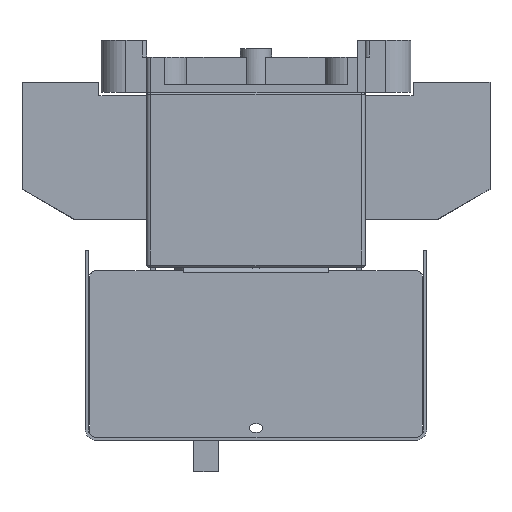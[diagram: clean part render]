
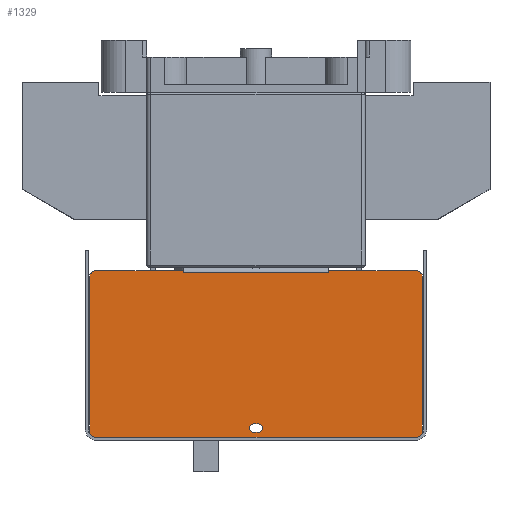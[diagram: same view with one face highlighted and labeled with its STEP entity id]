
A CAD part, left-side view. The second image highlights one B-rep face of the part: STEP entity #1329.
In plain terms, the highlighted planar face has unit normal (-1, 0, 0).
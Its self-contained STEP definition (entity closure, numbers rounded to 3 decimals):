
#170=FACE_BOUND('',#4641,.T.);
#171=FACE_BOUND('',#4642,.T.);
#1329=ADVANCED_FACE('',(#170,#171),#2339,.T.);
#2339=PLANE('',#24716);
#4641=EDGE_LOOP('',(#9539,#9540,#9541,#9542,#9543,#9544,#9545,#9546,#9547,
#9548,#9549,#9550,#9551,#9552));
#4642=EDGE_LOOP('',(#9553,#9554,#9555,#9556));
#5763=CIRCLE('',#24694,2.1);
#5765=CIRCLE('',#24698,2.1);
#5767=CIRCLE('',#24702,3.);
#5769=CIRCLE('',#24705,3.);
#5771=CIRCLE('',#24709,3.);
#5773=CIRCLE('',#24713,3.);
#9539=ORIENTED_EDGE('',*,*,#16827,.F.);
#9540=ORIENTED_EDGE('',*,*,#16828,.T.);
#9541=ORIENTED_EDGE('',*,*,#16829,.T.);
#9542=ORIENTED_EDGE('',*,*,#16830,.T.);
#9543=ORIENTED_EDGE('',*,*,#16831,.F.);
#9544=ORIENTED_EDGE('',*,*,#16819,.T.);
#9545=ORIENTED_EDGE('',*,*,#16824,.T.);
#9546=ORIENTED_EDGE('',*,*,#16807,.T.);
#9547=ORIENTED_EDGE('',*,*,#16810,.T.);
#9548=ORIENTED_EDGE('',*,*,#16785,.T.);
#9549=ORIENTED_EDGE('',*,*,#16813,.T.);
#9550=ORIENTED_EDGE('',*,*,#16816,.T.);
#9551=ORIENTED_EDGE('',*,*,#16818,.T.);
#9552=ORIENTED_EDGE('',*,*,#16793,.T.);
#9553=ORIENTED_EDGE('',*,*,#16797,.T.);
#9554=ORIENTED_EDGE('',*,*,#16801,.T.);
#9555=ORIENTED_EDGE('',*,*,#16804,.T.);
#9556=ORIENTED_EDGE('',*,*,#16826,.T.);
#13646=VERTEX_POINT('',#34491);
#13691=VERTEX_POINT('',#34588);
#13975=VERTEX_POINT('',#35679);
#13976=VERTEX_POINT('',#35681);
#13979=VERTEX_POINT('',#35688);
#13980=VERTEX_POINT('',#35690);
#13982=VERTEX_POINT('',#35696);
#13984=VERTEX_POINT('',#35702);
#13987=VERTEX_POINT('',#35709);
#13988=VERTEX_POINT('',#35711);
#13990=VERTEX_POINT('',#35720);
#13992=VERTEX_POINT('',#35726);
#13993=VERTEX_POINT('',#35733);
#13994=VERTEX_POINT('',#35734);
#13997=VERTEX_POINT('',#35748);
#13998=VERTEX_POINT('',#35750);
#13999=VERTEX_POINT('',#35752);
#14000=VERTEX_POINT('',#35754);
#16785=EDGE_CURVE('',#13646,#13691,#19737,.T.);
#16793=EDGE_CURVE('',#13976,#13975,#19744,.T.);
#16797=EDGE_CURVE('',#13980,#13979,#5763,.T.);
#16801=EDGE_CURVE('',#13979,#13982,#19750,.T.);
#16804=EDGE_CURVE('',#13982,#13984,#5765,.T.);
#16807=EDGE_CURVE('',#13988,#13987,#19754,.T.);
#16810=EDGE_CURVE('',#13987,#13646,#5767,.T.);
#16813=EDGE_CURVE('',#13691,#13990,#5769,.T.);
#16816=EDGE_CURVE('',#13990,#13992,#19759,.T.);
#16818=EDGE_CURVE('',#13992,#13976,#5771,.T.);
#16819=EDGE_CURVE('',#13993,#13994,#19760,.T.);
#16824=EDGE_CURVE('',#13994,#13988,#5773,.T.);
#16826=EDGE_CURVE('',#13984,#13980,#19765,.T.);
#16827=EDGE_CURVE('',#13997,#13975,#19766,.T.);
#16828=EDGE_CURVE('',#13997,#13998,#19767,.T.);
#16829=EDGE_CURVE('',#13998,#13999,#19768,.T.);
#16830=EDGE_CURVE('',#13999,#14000,#19769,.T.);
#16831=EDGE_CURVE('',#13993,#14000,#19770,.T.);
#19737=LINE('',#35662,#22353);
#19744=LINE('',#35680,#22360);
#19750=LINE('',#35697,#22366);
#19754=LINE('',#35710,#22370);
#19759=LINE('',#35727,#22375);
#19760=LINE('',#35732,#22376);
#19765=LINE('',#35745,#22381);
#19766=LINE('',#35747,#22382);
#19767=LINE('',#35749,#22383);
#19768=LINE('',#35751,#22384);
#19769=LINE('',#35753,#22385);
#19770=LINE('',#35755,#22386);
#22353=VECTOR('',#28987,1.);
#22360=VECTOR('',#29000,1.);
#22366=VECTOR('',#29014,1.);
#22370=VECTOR('',#29026,1.);
#22375=VECTOR('',#29045,1.);
#22376=VECTOR('',#29054,1.);
#22381=VECTOR('',#29067,1.);
#22382=VECTOR('',#29070,1.);
#22383=VECTOR('',#29071,1.);
#22384=VECTOR('',#29072,1.);
#22385=VECTOR('',#29073,1.);
#22386=VECTOR('',#29074,1.);
#24694=AXIS2_PLACEMENT_3D('',#35689,#29007,#29008);
#24698=AXIS2_PLACEMENT_3D('',#35703,#29020,#29021);
#24702=AXIS2_PLACEMENT_3D('',#35715,#29032,#29033);
#24705=AXIS2_PLACEMENT_3D('',#35721,#29039,#29040);
#24709=AXIS2_PLACEMENT_3D('',#35730,#29050,#29051);
#24713=AXIS2_PLACEMENT_3D('',#35742,#29062,#29063);
#24716=AXIS2_PLACEMENT_3D('',#35756,#29075,#29076);
#28987=DIRECTION('',(0.,-1.,0.));
#29000=DIRECTION('',(0.,1.,0.));
#29007=DIRECTION('',(1.,0.,0.));
#29008=DIRECTION('',(0.,1.,0.));
#29014=DIRECTION('',(0.,-1.,0.));
#29020=DIRECTION('',(1.,0.,0.));
#29021=DIRECTION('',(0.,1.,0.));
#29026=DIRECTION('',(0.,0.,-1.));
#29032=DIRECTION('',(-1.,0.,0.));
#29033=DIRECTION('',(0.,1.,0.));
#29039=DIRECTION('',(-1.,0.,0.));
#29040=DIRECTION('',(0.,1.,0.));
#29045=DIRECTION('',(0.,0.,1.));
#29050=DIRECTION('',(-1.,0.,0.));
#29051=DIRECTION('',(0.,1.,0.));
#29054=DIRECTION('',(0.,1.,0.));
#29062=DIRECTION('',(-1.,0.,0.));
#29063=DIRECTION('',(0.,1.,0.));
#29067=DIRECTION('',(0.,1.,0.));
#29070=DIRECTION('',(0.,0.,1.));
#29071=DIRECTION('',(0.,1.,0.));
#29072=DIRECTION('',(0.,1.,0.));
#29073=DIRECTION('',(0.,1.,0.));
#29074=DIRECTION('',(0.,0.,-1.));
#29075=DIRECTION('',(-1.,0.,0.));
#29076=DIRECTION('',(0.,-1.,0.));
#34491=CARTESIAN_POINT('',(-189.3,77.,-165.8));
#34588=CARTESIAN_POINT('',(-189.3,-77.,-165.8));
#35662=CARTESIAN_POINT('',(-189.3,77.,-165.8));
#35679=CARTESIAN_POINT('',(-189.3,-35.002,-85.8));
#35680=CARTESIAN_POINT('',(-189.3,-77.,-85.8));
#35681=CARTESIAN_POINT('',(-189.3,-77.,-85.8));
#35688=CARTESIAN_POINT('',(-189.3,1.,-159.3));
#35689=CARTESIAN_POINT('',(-189.3,1.,-161.4));
#35690=CARTESIAN_POINT('',(-189.3,1.,-163.5));
#35696=CARTESIAN_POINT('',(-189.3,-1.,-159.3));
#35697=CARTESIAN_POINT('',(-189.3,1.,-159.3));
#35702=CARTESIAN_POINT('',(-189.3,-1.,-163.5));
#35703=CARTESIAN_POINT('',(-189.3,-1.,-161.4));
#35709=CARTESIAN_POINT('',(-189.3,80.,-162.8));
#35710=CARTESIAN_POINT('',(-189.3,80.,-88.8));
#35711=CARTESIAN_POINT('',(-189.3,80.,-88.8));
#35715=CARTESIAN_POINT('',(-189.3,77.,-162.8));
#35720=CARTESIAN_POINT('',(-189.3,-80.,-162.8));
#35721=CARTESIAN_POINT('',(-189.3,-77.,-162.8));
#35726=CARTESIAN_POINT('',(-189.3,-80.,-88.8));
#35727=CARTESIAN_POINT('',(-189.3,-80.,-162.8));
#35730=CARTESIAN_POINT('',(-189.3,-77.,-88.8));
#35732=CARTESIAN_POINT('',(-189.3,-77.,-85.8));
#35733=CARTESIAN_POINT('',(-189.3,35.002,-85.8));
#35734=CARTESIAN_POINT('',(-189.3,77.,-85.8));
#35742=CARTESIAN_POINT('',(-189.3,77.,-88.8));
#35745=CARTESIAN_POINT('',(-189.3,-1.,-163.5));
#35747=CARTESIAN_POINT('',(-189.3,-35.002,-162.8));
#35748=CARTESIAN_POINT('',(-189.3,-35.002,-86.8));
#35749=CARTESIAN_POINT('',(-189.3,77.,-86.8));
#35750=CARTESIAN_POINT('',(-189.3,-35.,-86.8));
#35751=CARTESIAN_POINT('',(-189.3,50.5,-86.8));
#35752=CARTESIAN_POINT('',(-189.3,35.,-86.8));
#35753=CARTESIAN_POINT('',(-189.3,77.,-86.8));
#35754=CARTESIAN_POINT('',(-189.3,35.002,-86.8));
#35755=CARTESIAN_POINT('',(-189.3,35.002,-162.8));
#35756=CARTESIAN_POINT('',(-189.3,77.,-162.8));
